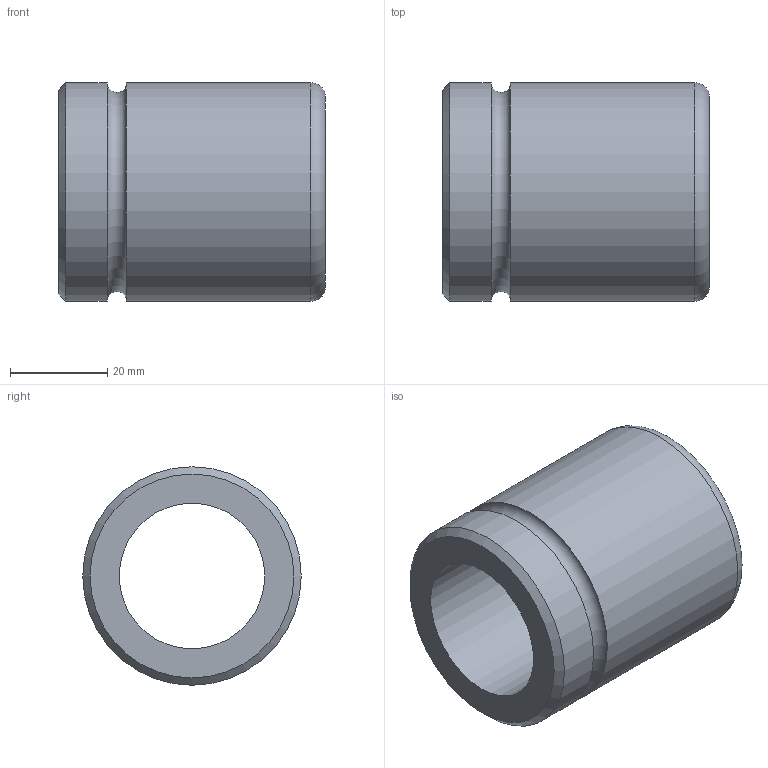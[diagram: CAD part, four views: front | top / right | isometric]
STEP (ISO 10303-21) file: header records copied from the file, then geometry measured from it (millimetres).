
FILE_DESCRIPTION(/* description */ ('Impex Ready, www.impex-ready.pl'),/* implementation_level */ '2;1');
FILE_NAME(/* name */ 'C:\Users\VIKKY\Nextcloud\SM\projekt 10 - części na stronę internetową\Pliki_3D_new\290 Tuleje B4\290 B4_STEP\B43055.ipt.step',/* time_stamp */ '2021-12-21T14:32:57+01:00',/* author */ ('SM'),/* organization */ (''),/* preprocessor_version */ 'ST-DEVELOPER v18.1',/* originating_system */ 'Autodesk Inventor 2021',/* authorisation */ '');
FILE_SCHEMA (('AUTOMOTIVE_DESIGN { 1 0 10303 214 3 1 1 }'));
Length unit declared in the file: millimetre
Products named in the file (1): B43055
Bounding box: 55 x 45 x 45 mm (x, y, z)
Volume: 47300.8 mm3; surface area: 14645.5 mm2
Topology: 1 solids, 1 shells, 9 faces, 21 edges, 14 vertices
Faces by surface type: torus 3, cylinder 3, plane 2, cone 1
Full cylindrical faces by diameter (mm): 30 x1, 45 x2
Entity records: 344 total; most frequent: DIRECTION 58, CARTESIAN_POINT 45, ORIENTED_EDGE 42, AXIS2_PLACEMENT_3D 27, EDGE_CURVE 21, CIRCLE 17, VERTEX_POINT 14, EDGE_LOOP 11
